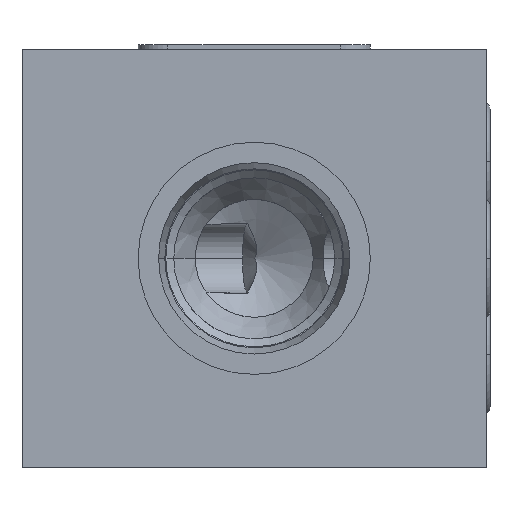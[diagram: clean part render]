
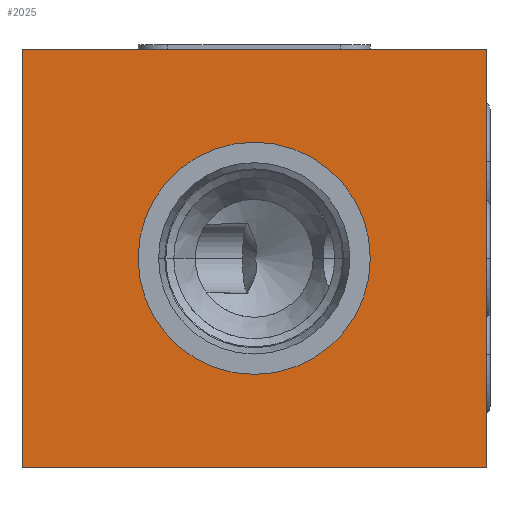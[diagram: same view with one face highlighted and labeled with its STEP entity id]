
A CAD part, left-side view. The second image highlights one B-rep face of the part: STEP entity #2025.
In plain terms, the highlighted planar face has unit normal (-1, 0, 0).
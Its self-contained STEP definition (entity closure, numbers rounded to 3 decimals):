
#52=DIRECTION('',(0.,0.,-1.));
#53=VECTOR('',#52,45.);
#54=CARTESIAN_POINT('',(0.,0.,0.));
#55=LINE('',#54,#53);
#59=DIRECTION('',(0.,1.,0.));
#60=VECTOR('',#59,50.);
#61=CARTESIAN_POINT('',(0.,0.,-45.));
#62=LINE('',#61,#60);
#66=DIRECTION('',(0.,0.,1.));
#67=VECTOR('',#66,45.);
#68=CARTESIAN_POINT('',(0.,50.,-45.));
#69=LINE('',#68,#67);
#73=DIRECTION('',(0.,-1.,0.));
#74=VECTOR('',#73,50.);
#75=CARTESIAN_POINT('',(0.,50.,0.));
#76=LINE('',#75,#74);
#80=CARTESIAN_POINT('',(0.,25.,-22.5));
#81=DIRECTION('',(1.,0.,0.));
#82=DIRECTION('',(0.,-1.,0.));
#83=AXIS2_PLACEMENT_3D('',#80,#81,#82);
#88=CARTESIAN_POINT('',(0.,25.,-22.5));
#89=DIRECTION('',(1.,0.,0.));
#90=DIRECTION('',(0.,1.,0.));
#91=AXIS2_PLACEMENT_3D('',#88,#89,#90);
#1797=CARTESIAN_POINT('',(0.,0.,0.));
#1798=CARTESIAN_POINT('',(0.,0.,-45.));
#1799=VERTEX_POINT('',#1797);
#1800=VERTEX_POINT('',#1798);
#1801=CARTESIAN_POINT('',(0.,50.,-45.));
#1802=VERTEX_POINT('',#1801);
#1803=CARTESIAN_POINT('',(0.,50.,0.));
#1804=VERTEX_POINT('',#1803);
#1915=CARTESIAN_POINT('',(0.,12.5,-22.5));
#1916=VERTEX_POINT('',#1915);
#1917=CARTESIAN_POINT('',(0.,37.5,-22.5));
#1918=VERTEX_POINT('',#1917);
#2004=CARTESIAN_POINT('',(0.,0.,0.));
#2005=DIRECTION('',(1.,0.,0.));
#2006=DIRECTION('',(0.,0.,-1.));
#2007=AXIS2_PLACEMENT_3D('',#2004,#2005,#2006);
#2008=PLANE('',#2007);
#2010=ORIENTED_EDGE('',*,*,#2009,.T.);
#2012=ORIENTED_EDGE('',*,*,#2011,.T.);
#2014=ORIENTED_EDGE('',*,*,#2013,.T.);
#2016=ORIENTED_EDGE('',*,*,#2015,.T.);
#2017=EDGE_LOOP('',(#2010,#2012,#2014,#2016));
#2018=FACE_OUTER_BOUND('',#2017,.F.);
#2020=ORIENTED_EDGE('',*,*,#2019,.F.);
#2022=ORIENTED_EDGE('',*,*,#2021,.F.);
#2023=EDGE_LOOP('',(#2020,#2022));
#2024=FACE_BOUND('',#2023,.F.);
#84=CIRCLE('',#83,12.5);
#92=CIRCLE('',#91,12.5);
#2009=EDGE_CURVE('',#1799,#1800,#55,.T.);
#2011=EDGE_CURVE('',#1800,#1802,#62,.T.);
#2013=EDGE_CURVE('',#1802,#1804,#69,.T.);
#2015=EDGE_CURVE('',#1804,#1799,#76,.T.);
#2019=EDGE_CURVE('',#1916,#1918,#84,.T.);
#2021=EDGE_CURVE('',#1918,#1916,#92,.T.);
#2025=ADVANCED_FACE('',(#2018,#2024),#2008,.F.);
